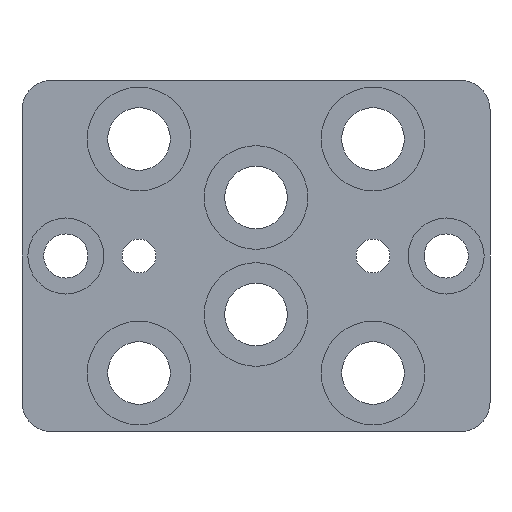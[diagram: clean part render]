
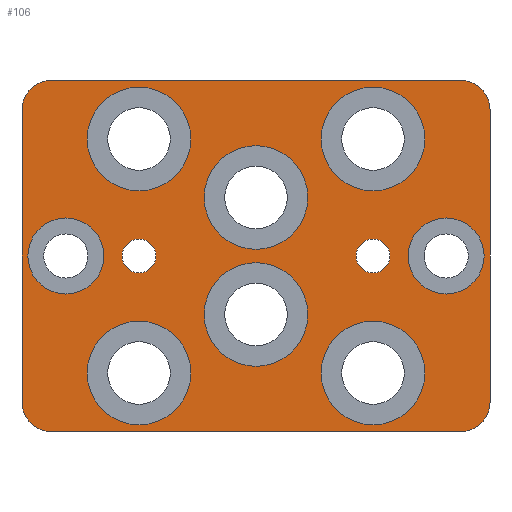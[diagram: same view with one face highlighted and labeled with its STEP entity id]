
A CAD part, front view. The second image highlights one B-rep face of the part: STEP entity #106.
In plain terms, the highlighted planar face has unit normal (0, -1, 0).
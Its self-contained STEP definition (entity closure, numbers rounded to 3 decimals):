
#106 = ADVANCED_FACE( '', ( #244, #245, #246, #247, #248, #249, #250, #251, #252, #253, #254 ), #255, .T. );
#244 = FACE_BOUND( '', #405, .T. );
#245 = FACE_BOUND( '', #406, .T. );
#246 = FACE_BOUND( '', #407, .T. );
#247 = FACE_BOUND( '', #408, .T. );
#248 = FACE_BOUND( '', #409, .T. );
#249 = FACE_BOUND( '', #410, .T. );
#250 = FACE_BOUND( '', #411, .T. );
#251 = FACE_BOUND( '', #412, .T. );
#252 = FACE_BOUND( '', #413, .T. );
#253 = FACE_BOUND( '', #414, .T. );
#254 = FACE_OUTER_BOUND( '', #415, .T. );
#255 = PLANE( '', #416 );
#405 = EDGE_LOOP( '', ( #631 ) );
#406 = EDGE_LOOP( '', ( #632 ) );
#407 = EDGE_LOOP( '', ( #633 ) );
#408 = EDGE_LOOP( '', ( #634 ) );
#409 = EDGE_LOOP( '', ( #635 ) );
#410 = EDGE_LOOP( '', ( #636 ) );
#411 = EDGE_LOOP( '', ( #637 ) );
#412 = EDGE_LOOP( '', ( #638 ) );
#413 = EDGE_LOOP( '', ( #639 ) );
#414 = EDGE_LOOP( '', ( #640 ) );
#415 = EDGE_LOOP( '', ( #641, #642, #643, #644, #645, #646, #647, #648 ) );
#416 = AXIS2_PLACEMENT_3D( '', #649, #650, #651 );
#631 = ORIENTED_EDGE( '', *, *, #733, .T. );
#632 = ORIENTED_EDGE( '', *, *, #794, .T. );
#633 = ORIENTED_EDGE( '', *, *, #803, .T. );
#634 = ORIENTED_EDGE( '', *, *, #766, .T. );
#635 = ORIENTED_EDGE( '', *, *, #804, .T. );
#636 = ORIENTED_EDGE( '', *, *, #783, .T. );
#637 = ORIENTED_EDGE( '', *, *, #730, .T. );
#638 = ORIENTED_EDGE( '', *, *, #778, .T. );
#639 = ORIENTED_EDGE( '', *, *, #741, .F. );
#640 = ORIENTED_EDGE( '', *, *, #805, .F. );
#641 = ORIENTED_EDGE( '', *, *, #737, .T. );
#642 = ORIENTED_EDGE( '', *, *, #796, .T. );
#643 = ORIENTED_EDGE( '', *, *, #785, .T. );
#644 = ORIENTED_EDGE( '', *, *, #800, .T. );
#645 = ORIENTED_EDGE( '', *, *, #774, .T. );
#646 = ORIENTED_EDGE( '', *, *, #769, .T. );
#647 = ORIENTED_EDGE( '', *, *, #806, .T. );
#648 = ORIENTED_EDGE( '', *, *, #807, .T. );
#649 = CARTESIAN_POINT( '', ( 25.4, 0., 19.05 ) );
#650 = DIRECTION( '', ( 0., -1., 0. ) );
#651 = DIRECTION( '', ( 0., 0., -1. ) );
#730 = EDGE_CURVE( '', #827, #827, #828, .T. );
#733 = EDGE_CURVE( '', #832, #832, #833, .T. );
#737 = EDGE_CURVE( '', #840, #838, #841, .T. );
#741 = EDGE_CURVE( '', #846, #846, #847, .T. );
#766 = EDGE_CURVE( '', #891, #891, #892, .T. );
#769 = EDGE_CURVE( '', #896, #894, #897, .T. );
#774 = EDGE_CURVE( '', #903, #896, #904, .T. );
#778 = EDGE_CURVE( '', #909, #909, #910, .T. );
#783 = EDGE_CURVE( '', #917, #917, #918, .T. );
#785 = EDGE_CURVE( '', #920, #921, #922, .T. );
#794 = EDGE_CURVE( '', #934, #934, #935, .T. );
#796 = EDGE_CURVE( '', #838, #920, #937, .T. );
#800 = EDGE_CURVE( '', #921, #903, #941, .T. );
#803 = EDGE_CURVE( '', #944, #944, #945, .T. );
#804 = EDGE_CURVE( '', #946, #946, #947, .T. );
#805 = EDGE_CURVE( '', #948, #948, #949, .T. );
#806 = EDGE_CURVE( '', #894, #950, #951, .T. );
#807 = EDGE_CURVE( '', #950, #840, #952, .T. );
#827 = VERTEX_POINT( '', #975 );
#828 = CIRCLE( '', #976, 5.625 );
#832 = VERTEX_POINT( '', #980 );
#833 = CIRCLE( '', #981, 4.125 );
#838 = VERTEX_POINT( '', #987 );
#840 = VERTEX_POINT( '', #990 );
#841 = LINE( '', #991, #992 );
#846 = VERTEX_POINT( '', #998 );
#847 = CIRCLE( '', #999, 1.84 );
#891 = VERTEX_POINT( '', #1046 );
#892 = CIRCLE( '', #1047, 5.625 );
#894 = VERTEX_POINT( '', #1049 );
#896 = VERTEX_POINT( '', #1052 );
#897 = CIRCLE( '', #1053, 3.175 );
#903 = VERTEX_POINT( '', #1060 );
#904 = LINE( '', #1061, #1062 );
#909 = VERTEX_POINT( '', #1068 );
#910 = CIRCLE( '', #1069, 5.625 );
#917 = VERTEX_POINT( '', #1076 );
#918 = CIRCLE( '', #1077, 5.625 );
#920 = VERTEX_POINT( '', #1079 );
#921 = VERTEX_POINT( '', #1080 );
#922 = LINE( '', #1081, #1082 );
#934 = VERTEX_POINT( '', #1096 );
#935 = CIRCLE( '', #1097, 4.125 );
#937 = CIRCLE( '', #1099, 3.175 );
#941 = CIRCLE( '', #1103, 3.175 );
#944 = VERTEX_POINT( '', #1106 );
#945 = CIRCLE( '', #1107, 5.625 );
#946 = VERTEX_POINT( '', #1108 );
#947 = CIRCLE( '', #1109, 5.625 );
#948 = VERTEX_POINT( '', #1110 );
#949 = CIRCLE( '', #1111, 1.84 );
#950 = VERTEX_POINT( '', #1112 );
#951 = LINE( '', #1113, #1114 );
#952 = CIRCLE( '', #1115, 3.175 );
#975 = CARTESIAN_POINT( '', ( 12.7, 0., 7.075 ) );
#976 = AXIS2_PLACEMENT_3D( '', #1139, #1140, #1141 );
#980 = CARTESIAN_POINT( '', ( 20.638, 0., -4.125 ) );
#981 = AXIS2_PLACEMENT_3D( '', #1145, #1146, #1147 );
#987 = CARTESIAN_POINT( '', ( 25.4, 0., 15.875 ) );
#990 = CARTESIAN_POINT( '', ( 25.4, 0., -15.875 ) );
#991 = CARTESIAN_POINT( '', ( 25.4, 0., -19.05 ) );
#992 = VECTOR( '', #1150, 1000. );
#998 = CARTESIAN_POINT( '', ( -12.7, 0., -1.84 ) );
#999 = AXIS2_PLACEMENT_3D( '', #1155, #1156, #1157 );
#1046 = CARTESIAN_POINT( '', ( 0., 0., 0.725 ) );
#1047 = AXIS2_PLACEMENT_3D( '', #1212, #1213, #1214 );
#1049 = CARTESIAN_POINT( '', ( -22.225, 0., -19.05 ) );
#1052 = CARTESIAN_POINT( '', ( -25.4, 0., -15.875 ) );
#1053 = AXIS2_PLACEMENT_3D( '', #1216, #1217, #1218 );
#1060 = CARTESIAN_POINT( '', ( -25.4, 0., 15.875 ) );
#1061 = CARTESIAN_POINT( '', ( -25.4, 0., 19.05 ) );
#1062 = VECTOR( '', #1223, 1000. );
#1068 = CARTESIAN_POINT( '', ( -12.7, 0., 7.075 ) );
#1069 = AXIS2_PLACEMENT_3D( '', #1228, #1229, #1230 );
#1076 = CARTESIAN_POINT( '', ( 12.7, 0., -18.325 ) );
#1077 = AXIS2_PLACEMENT_3D( '', #1237, #1238, #1239 );
#1079 = CARTESIAN_POINT( '', ( 22.225, 0., 19.05 ) );
#1080 = CARTESIAN_POINT( '', ( -22.225, 0., 19.05 ) );
#1081 = CARTESIAN_POINT( '', ( 25.4, 0., 19.05 ) );
#1082 = VECTOR( '', #1240, 1000. );
#1096 = CARTESIAN_POINT( '', ( -20.638, 0., -4.125 ) );
#1097 = AXIS2_PLACEMENT_3D( '', #1252, #1253, #1254 );
#1099 = AXIS2_PLACEMENT_3D( '', #1255, #1256, #1257 );
#1103 = AXIS2_PLACEMENT_3D( '', #1258, #1259, #1260 );
#1106 = CARTESIAN_POINT( '', ( 0., 0., -11.975 ) );
#1107 = AXIS2_PLACEMENT_3D( '', #1261, #1262, #1263 );
#1108 = CARTESIAN_POINT( '', ( -12.7, 0., -18.325 ) );
#1109 = AXIS2_PLACEMENT_3D( '', #1264, #1265, #1266 );
#1110 = CARTESIAN_POINT( '', ( 12.7, 0., -1.84 ) );
#1111 = AXIS2_PLACEMENT_3D( '', #1267, #1268, #1269 );
#1112 = CARTESIAN_POINT( '', ( 22.225, 0., -19.05 ) );
#1113 = CARTESIAN_POINT( '', ( -25.4, 0., -19.05 ) );
#1114 = VECTOR( '', #1270, 1000. );
#1115 = AXIS2_PLACEMENT_3D( '', #1271, #1272, #1273 );
#1139 = CARTESIAN_POINT( '', ( 12.7, 0., 12.7 ) );
#1140 = DIRECTION( '', ( 0., 1., 0. ) );
#1141 = DIRECTION( '', ( 0., 0., -1. ) );
#1145 = CARTESIAN_POINT( '', ( 20.638, 0., 0. ) );
#1146 = DIRECTION( '', ( 0., 1., 0. ) );
#1147 = DIRECTION( '', ( 0., 0., -1. ) );
#1150 = DIRECTION( '', ( 0., 0., 1. ) );
#1155 = CARTESIAN_POINT( '', ( -12.7, 0., 0. ) );
#1156 = DIRECTION( '', ( 0., -1., 0. ) );
#1157 = DIRECTION( '', ( 0., 0., -1. ) );
#1212 = CARTESIAN_POINT( '', ( 0., 0., 6.35 ) );
#1213 = DIRECTION( '', ( 0., 1., 0. ) );
#1214 = DIRECTION( '', ( 0., 0., -1. ) );
#1216 = CARTESIAN_POINT( '', ( -22.225, 0., -15.875 ) );
#1217 = DIRECTION( '', ( 0., -1., 0. ) );
#1218 = DIRECTION( '', ( 0., 0., -1. ) );
#1223 = DIRECTION( '', ( 0., 0., -1. ) );
#1228 = CARTESIAN_POINT( '', ( -12.7, 0., 12.7 ) );
#1229 = DIRECTION( '', ( 0., 1., 0. ) );
#1230 = DIRECTION( '', ( 0., 0., -1. ) );
#1237 = CARTESIAN_POINT( '', ( 12.7, 0., -12.7 ) );
#1238 = DIRECTION( '', ( 0., 1., 0. ) );
#1239 = DIRECTION( '', ( 0., 0., -1. ) );
#1240 = DIRECTION( '', ( -1., 0., 0. ) );
#1252 = CARTESIAN_POINT( '', ( -20.638, 0., 0. ) );
#1253 = DIRECTION( '', ( 0., 1., 0. ) );
#1254 = DIRECTION( '', ( 0., 0., -1. ) );
#1255 = CARTESIAN_POINT( '', ( 22.225, 0., 15.875 ) );
#1256 = DIRECTION( '', ( 0., -1., 0. ) );
#1257 = DIRECTION( '', ( 0., 0., -1. ) );
#1258 = CARTESIAN_POINT( '', ( -22.225, 0., 15.875 ) );
#1259 = DIRECTION( '', ( 0., -1., 0. ) );
#1260 = DIRECTION( '', ( 0., 0., -1. ) );
#1261 = CARTESIAN_POINT( '', ( 0., 0., -6.35 ) );
#1262 = DIRECTION( '', ( 0., 1., 0. ) );
#1263 = DIRECTION( '', ( 0., 0., -1. ) );
#1264 = CARTESIAN_POINT( '', ( -12.7, 0., -12.7 ) );
#1265 = DIRECTION( '', ( 0., 1., 0. ) );
#1266 = DIRECTION( '', ( 0., 0., -1. ) );
#1267 = CARTESIAN_POINT( '', ( 12.7, 0., 0. ) );
#1268 = DIRECTION( '', ( 0., -1., 0. ) );
#1269 = DIRECTION( '', ( 0., 0., -1. ) );
#1270 = DIRECTION( '', ( 1., 0., 0. ) );
#1271 = CARTESIAN_POINT( '', ( 22.225, 0., -15.875 ) );
#1272 = DIRECTION( '', ( 0., -1., 0. ) );
#1273 = DIRECTION( '', ( 0., 0., -1. ) );
